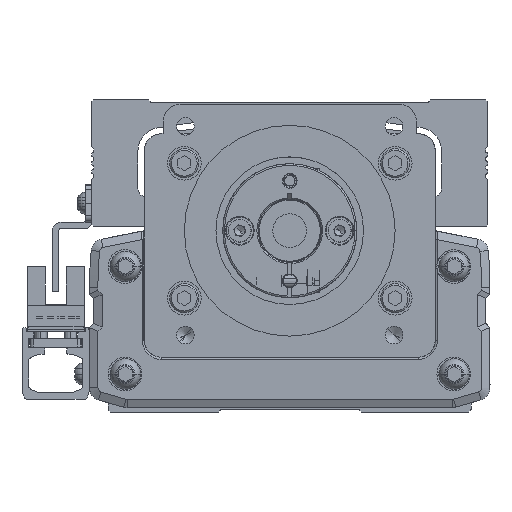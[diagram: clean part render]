
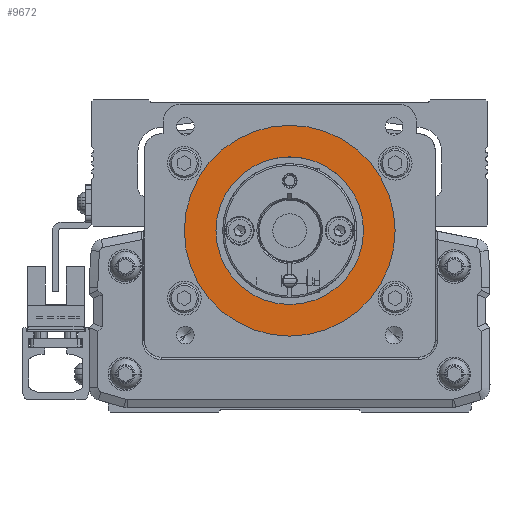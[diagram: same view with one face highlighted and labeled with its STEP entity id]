
A CAD part, front view. The second image highlights one B-rep face of the part: STEP entity #9672.
In plain terms, the highlighted planar face has unit normal (0, -1, 0).
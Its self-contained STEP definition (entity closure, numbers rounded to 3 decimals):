
#9672=ADVANCED_FACE('',(#20130,#20131),#20132,.T.);
#20130=FACE_BOUND('',#33117,.T.);
#20131=FACE_OUTER_BOUND('',#33118,.T.);
#20132=PLANE('',#33119);
#33117=EDGE_LOOP('',(#61433,#61434));
#33118=EDGE_LOOP('',(#61435,#61436));
#33119=AXIS2_PLACEMENT_3D('',#61437,#61438,#61439);
#61433=ORIENTED_EDGE('',*,*,#79202,.T.);
#61434=ORIENTED_EDGE('',*,*,#79203,.T.);
#61435=ORIENTED_EDGE('',*,*,#72681,.F.);
#61436=ORIENTED_EDGE('',*,*,#69462,.F.);
#61437=CARTESIAN_POINT('',(0.,-135.778,0.));
#61438=DIRECTION('',(0.,-1.0,0.));
#61439=DIRECTION('',(1.0,0.,0.));
#69462=EDGE_CURVE('',#83292,#83287,#83294,.T.);
#72681=EDGE_CURVE('',#83287,#83292,#88632,.T.);
#79202=EDGE_CURVE('',#97438,#97439,#97440,.T.);
#79203=EDGE_CURVE('',#97439,#97438,#97441,.T.);
#83287=VERTEX_POINT('',#102802);
#83292=VERTEX_POINT('',#102808);
#83294=CIRCLE('',#102811,25.0);
#88632=CIRCLE('',#110329,25.0);
#97438=VERTEX_POINT('',#123402);
#97439=VERTEX_POINT('',#123403);
#97440=CIRCLE('',#123404,17.5);
#97441=CIRCLE('',#123405,17.5);
#102802=CARTESIAN_POINT('',(25.,-135.778,0.));
#102808=CARTESIAN_POINT('',(-25.,-135.778,0.));
#102811=AXIS2_PLACEMENT_3D('',#127259,#127260,#127261);
#110329=AXIS2_PLACEMENT_3D('',#131811,#131812,#131813);
#123402=CARTESIAN_POINT('',(17.5,-135.778,0.));
#123403=CARTESIAN_POINT('',(-17.5,-135.778,0.));
#123404=AXIS2_PLACEMENT_3D('',#139296,#139297,#139298);
#123405=AXIS2_PLACEMENT_3D('',#139299,#139300,#139301);
#127259=CARTESIAN_POINT('',(0.,-135.778,0.));
#127260=DIRECTION('',(0.,1.0,0.));
#127261=DIRECTION('',(1.0,0.,0.));
#131811=CARTESIAN_POINT('',(0.,-135.778,0.));
#131812=DIRECTION('',(0.,1.0,0.));
#131813=DIRECTION('',(1.0,0.,0.));
#139296=CARTESIAN_POINT('',(0.,-135.778,0.));
#139297=DIRECTION('',(0.,1.0,0.));
#139298=DIRECTION('',(-1.0,0.,0.));
#139299=CARTESIAN_POINT('',(0.,-135.778,0.));
#139300=DIRECTION('',(0.,1.0,0.));
#139301=DIRECTION('',(-1.0,0.,0.));
